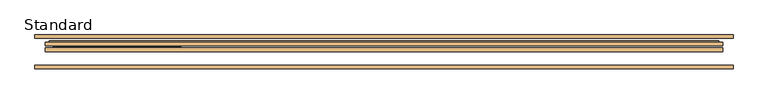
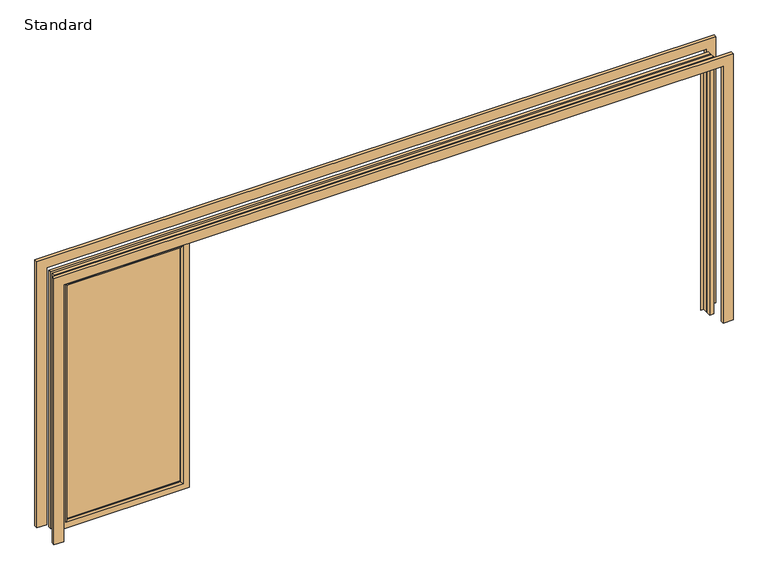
"""IFC4 building model written with IfcOpenShell, lengths in millimetres: door geometry, SMARTS_Visofold1000 : Standard."""

from ifc_helpers import new_model, si_unit, frame, origin, place, context, project, spatial, polyline, ellipse_curve, outline, extrude, faceted_brep, source, transform, mapped, element, save
from ifc_brep_helpers import plane_surface, cylinder_surface, advanced_brep


def standard_6c50d4af(model_context):
    return source(origin(), model_context, "Body", "SolidModel", [
        advanced_brep(
        [(-1536.5, 13.3, 60.5), (-1536.5, 13.3, 1939.5), (-1536.5, 17.4, 1939.5), (-1536.5, 17.4, 60.5), (-1476.0, 17.4, 0.0), (-1476.0, 17.4, 2000.0), (-1476.0, 0.0, 2000.0), (-1476.0, 0.0, 0.0), (-2399.5, 13.3, 1939.5), (-2399.5, 17.4, 1939.5), (-2460.0, 17.4, 2000.0), (-2460.0, 0.0, 2000.0), (-2399.5, 13.3, 60.5), (-2399.5, 17.4, 60.5), (-2460.0, 17.4, 0.0), (-2460.0, 0.0, 0.0), (-1523.2, 0.0, 1952.8), (-1523.2, 0.0, 47.2), (-2412.8, 0.0, 47.2), (-2412.8, 0.0, 1952.8), (-1493.8691481, 34.8, 17.8691481), (-1493.8691481, 34.8, 1982.1308519), (-1493.8691481, 17.4, 1982.1308519), (-1493.8691481, 17.4, 17.8691481), (-2442.1308519, 34.8, 1982.1308519), (-2442.1308519, 17.4, 1982.1308519), (-2442.1308519, 34.8, 17.8691481), (-2442.1308519, 17.4, 17.8691481), (-1521.0, 17.4, 45.0), (-1521.0, 17.4, 1955.0), (-1521.0, 34.8, 1955.0), (-1521.0, 34.8, 45.0), (-2415.0, 17.4, 1955.0), (-2415.0, 34.8, 1955.0), (-2415.0, 17.4, 45.0), (-2415.0, 34.8, 45.0)],
        [
            (0, 1),
            (1, 2),
            (2, 3),
            (3, 0),
            (4, 5),
            (5, 6),
            (6, 7),
            (7, 4),
            (1, 8),
            (8, 9),
            (9, 2),
            (5, 10),
            (10, 11),
            (11, 6),
            (8, 12),
            (12, 13),
            (13, 9),
            (10, 14),
            (14, 15),
            (15, 11),
            (12, 0),
            (3, 13),
            (15, 7),
            (16, 17),
            (17, 18),
            (18, 19),
            (19, 16),
            (14, 4),
            (16, 1, ellipse_curve(frame((-1523.2, 13.3, 1952.8), z_axis=(0.7071067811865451, 0.0, -0.7071067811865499), x_axis=(-0.70710678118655, 0.0, -0.7071067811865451)), 18.8090404, 13.3)),
            (0, 17, ellipse_curve(frame((-1523.2, 13.3, 47.2), z_axis=(0.70710678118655, 0.0, 0.707106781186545), x_axis=(0.707106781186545, 0.0, -0.7071067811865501)), 18.8090404, 13.3)),
            (19, 8, ellipse_curve(frame((-2412.8, 13.3, 1952.8), z_axis=(0.70710678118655, 0.0, 0.707106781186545), x_axis=(0.707106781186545, 0.0, -0.7071067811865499)), 18.8090404, 13.3)),
            (18, 12, ellipse_curve(frame((-2412.8, 13.3, 47.2), z_axis=(-0.7071067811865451, 0.0, 0.7071067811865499), x_axis=(0.70710678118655, 0.0, 0.7071067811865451)), 18.8090404, 13.3)),
            (20, 21),
            (21, 22),
            (22, 23),
            (23, 20),
            (21, 24),
            (24, 25),
            (25, 22),
            (24, 26),
            (26, 27),
            (27, 25),
            (27, 23),
            (26, 20),
            (28, 29),
            (29, 30),
            (30, 31),
            (31, 28),
            (29, 32),
            (32, 33),
            (33, 30),
            (32, 34),
            (34, 35),
            (35, 33),
            (34, 28),
            (31, 35),
        ],
        [
            plane_surface(frame((-1536.5, 17.4, 60.5), z_axis=(-1.0, 0.0, 0.0), x_axis=(0.0, 0.0, 1.0))),
            plane_surface(frame((-1476.0, 0.0, 0.0), z_axis=(1.0, 0.0, 0.0), x_axis=(0.0, 0.0, 1.0))),
            plane_surface(frame((-1536.5, 17.4, 1939.5), z_axis=(0.0, 0.0, -1.0), x_axis=(-1.0, 0.0, 0.0))),
            plane_surface(frame((-1476.0, 0.0, 2000.0), z_axis=(0.0, 0.0, 1.0), x_axis=(-1.0, 0.0, 0.0))),
            plane_surface(frame((-2399.5, 17.4, 1939.5), z_axis=(1.0, 0.0, 0.0), x_axis=(0.0, 0.0, -1.0))),
            plane_surface(frame((-2460.0, 0.0, 2000.0), z_axis=(-1.0, 0.0, 0.0), x_axis=(0.0, 0.0, -1.0))),
            plane_surface(frame((-2399.5, 17.4, 60.5), z_axis=(0.0, 0.0, 1.0), x_axis=(1.0, 0.0, 0.0))),
            plane_surface(frame((-2412.8, 0.0, 47.2), z_axis=(0.0, -1.0, 0.0), x_axis=(1.0, 0.0, 0.0))),
            plane_surface(frame((-2460.0, 0.0, 0.0), z_axis=(0.0, 0.0, -1.0), x_axis=(1.0, 0.0, 0.0))),
            cylinder_surface(frame((-1523.2, 13.3, 0.0), z_axis=(0.0, 0.0, -1.0), x_axis=(0.0, 1.0, 0.0)), 13.3),
            cylinder_surface(frame((-1476.0, 13.3, 1952.8), z_axis=(1.0, 0.0, 0.0), x_axis=(0.0, 1.0, 0.0)), 13.3),
            cylinder_surface(frame((-2412.8, 13.3, 2000.0), z_axis=(0.0, 0.0, 1.0), x_axis=(0.0, 1.0, 0.0)), 13.3),
            cylinder_surface(frame((-2460.0, 13.3, 47.2), z_axis=(-1.0, 0.0, 0.0), x_axis=(0.0, 1.0, 0.0)), 13.3),
            plane_surface(frame((-1493.8691481, 17.4, 17.8691481), z_axis=(1.0, 0.0, 0.0), x_axis=(0.0, 0.0, 1.0))),
            plane_surface(frame((-1493.8691481, 17.4, 1982.1308519), z_axis=(0.0, 0.0, 1.0), x_axis=(-1.0, 0.0, 0.0))),
            plane_surface(frame((-2442.1308519, 17.4, 1982.1308519), z_axis=(-1.0, 0.0, 0.0), x_axis=(0.0, 0.0, -1.0))),
            plane_surface(frame((-2460.0, 17.4, 0.0), z_axis=(0.0, 1.0, 0.0), x_axis=(1.0, 0.0, 0.0))),
            plane_surface(frame((-2442.1308519, 17.4, 17.8691481), z_axis=(0.0, 0.0, -1.0), x_axis=(1.0, 0.0, 0.0))),
            plane_surface(frame((-1521.0, 34.8, 45.0), z_axis=(-1.0, 0.0, 0.0), x_axis=(0.0, 0.0, 1.0))),
            plane_surface(frame((-1521.0, 34.8, 1955.0), z_axis=(0.0, 0.0, -1.0), x_axis=(-1.0, 0.0, 0.0))),
            plane_surface(frame((-2415.0, 34.8, 1955.0), z_axis=(1.0, 0.0, 0.0), x_axis=(0.0, 0.0, -1.0))),
            plane_surface(frame((-2415.0, 34.8, 45.0), z_axis=(0.0, 0.0, 1.0), x_axis=(1.0, 0.0, 0.0))),
            plane_surface(frame((-2415.0, 17.4, 45.0), z_axis=(0.0, 1.0, 0.0), x_axis=(1.0, 0.0, 0.0))),
            plane_surface(frame((-2442.1308519, 34.8, 17.8691481), z_axis=(0.0, 1.0, 0.0), x_axis=(1.0, 0.0, 0.0))),
        ],
        [
            (0, [[1, 2, 3, 4]]),
            (1, [[5, 6, 7, 8]]),
            (2, [[9, 10, 11, -2]]),
            (3, [[12, 13, 14, -6]]),
            (4, [[15, 16, 17, -10]]),
            (5, [[18, 19, 20, -13]]),
            (6, [[21, -4, 22, -16]]),
            (7, [[-7, -14, -20, 23], [24, 25, 26, 27]]),
            (8, [[28, -8, -23, -19]]),
            (9, [[-24, 29, -1, 30]]),
            (10, [[-27, 31, -9, -29]]),
            (11, [[-26, 32, -15, -31]]),
            (12, [[-25, -30, -21, -32]]),
            (13, [[33, 34, 35, 36]]),
            (14, [[37, 38, 39, -34]]),
            (15, [[40, 41, 42, -38]]),
            (16, [[-5, -28, -18, -12], [-35, -39, -42, 43]]),
            (17, [[44, -36, -43, -41]]),
            (18, [[45, 46, 47, 48]]),
            (19, [[49, 50, 51, -46]]),
            (20, [[52, 53, 54, -50]]),
            (21, [[55, -48, 56, -53]]),
            (22, [[-45, -55, -52, -49], [-3, -11, -17, -22]]),
            (23, [[-33, -44, -40, -37], [-47, -51, -54, -56]]),
        ],
    ),
        extrude(outline(polyline([(-1536.5, 50.1484783), (-1536.5, 21.4), (-2399.5, 21.4), (-2399.5, 50.1484783), (-1536.5, 50.1484783)])), frame((0.0, 0.0, 60.5), z_axis=(0.0, 0.0, 1.0), x_axis=(1.0, 0.0, 0.0)), (0.0, 0.0, 1.0), 1879.0),
        extrude(outline(polyline([(2058.6516063, -2500.0), (2058.6516063, 2500.0), (0.0, 2500.0), (0.0, 2575.0), (2133.6516063, 2575.0), (2133.6516063, -2575.0), (0.0, -2575.0), (0.0, -2500.0), (2058.6516063, -2500.0)])), frame((0.0, 100.0, 0.0), z_axis=(0.0, 1.0, 0.0), x_axis=(0.0, 0.0, 1.0)), (0.0, 0.0, 1.0), 25.0),
        extrude(outline(polyline([(2133.6516063, -2575.0), (0.0, -2575.0), (0.0, -2500.0), (2058.6516063, -2500.0), (2058.6516063, 2500.0), (0.0, 2500.0), (0.0, 2575.0), (2133.6516063, 2575.0), (2133.6516063, -2575.0)])), frame((0.0, -125.0, 0.0), z_axis=(0.0, 1.0, 0.0), x_axis=(0.0, 0.0, 1.0)), (0.0, 0.0, 1.0), 25.0),
        extrude(outline(polyline([(0.0, 2468.8), (0.0, 2500.0), (2058.6516063, 2500.0), (2058.6516063, -2500.0), (0.0, -2500.0), (0.0, -2468.8), (2027.4516063, -2468.8), (2027.4516063, 2468.8), (0.0, 2468.8)])), frame((0.0, 0.0, 0.0), z_axis=(0.0, 1.0, 0.0), x_axis=(0.0, 0.0, 1.0)), (0.0, 0.0, 1.0), 29.65),
        faceted_brep([(2500.0, 44.85, 0.0), (2468.8, 44.85, 0.0), (2468.8, 77.4, 0.0), (2448.3, 77.4, 0.0), (2448.3, 81.9, 0.0), (2470.6, 81.9, 0.0), (2470.6, 70.0, 0.0), (2500.0, 70.0, 0.0), (2500.0, 44.85, 2058.6516063), (-2500.0, 44.85, 2058.6516063), (-2500.0, 44.85, 0.0), (-2468.8, 44.85, 0.0), (-2468.8, 44.85, 2027.4516063), (2468.8, 44.85, 2027.4516063), (2468.8, 77.4, 2027.4516063), (-2468.8, 77.4, 2027.4516063), (-2468.8, 77.4, 0.0), (-2448.3, 77.4, 0.0), (-2448.3, 77.4, 2006.9516063), (2448.3, 77.4, 2006.9516063), (2448.3, 81.9, 2006.9516063), (-2448.3, 81.9, 2006.9516063), (-2448.3, 81.9, 0.0), (-2470.6, 81.9, 0.0), (-2470.6, 81.9, 2029.2516063), (2470.6, 81.9, 2029.2516063), (2470.6, 70.0, 2029.2516063), (-2470.6, 70.0, 2029.2516063), (-2470.6, 70.0, 0.0), (-2500.0, 70.0, 0.0), (-2500.0, 70.0, 2058.6516063), (2500.0, 70.0, 2058.6516063)], [[[0, 1, 2, 3, 4, 5, 6, 7]], [[1, 0, 8, 9, 10, 11, 12, 13]], [[2, 1, 13, 14]], [[3, 2, 14, 15, 16, 17, 18, 19]], [[4, 3, 19, 20]], [[5, 4, 20, 21, 22, 23, 24, 25]], [[6, 5, 25, 26]], [[7, 6, 26, 27, 28, 29, 30, 31]], [[0, 7, 31, 8]], [[10, 29, 28, 23, 22, 17, 16, 11]], [[9, 30, 29, 10]], [[27, 24, 23, 28]], [[21, 18, 17, 22]], [[15, 12, 11, 16]], [[8, 31, 30, 9]], [[14, 13, 12, 15]], [[26, 25, 24, 27]], [[20, 19, 18, 21]]]),
    ])


if __name__ == "__main__":
    model = new_model("IFC4")
    model_context = context("Model", 3, world=origin())
    ifc_project = project(units=[si_unit("LENGTHUNIT", "METRE", prefix="MILLI")], contexts=[model_context])
    site = spatial("IfcSite", under=ifc_project)
    building = spatial("IfcBuilding", under=site)
    placement = place(None, origin())
    standard_shape = standard_6c50d4af(model_context)
    element("IfcDoor", 1, ObjectType="SMARTS_Visofold1000 : Standard", at=placement, inside=building, context=model_context, shape_type="MappedRepresentation", body=[
        mapped(standard_shape, transform((0.0, 0.0, 0.0), x_axis=(1.0, 0.0, 0.0), y_axis=(0.0, 1.0, 0.0), z_axis=(0.0, 0.0, 1.0))),
    ])
    save(model, "model.ifc")
